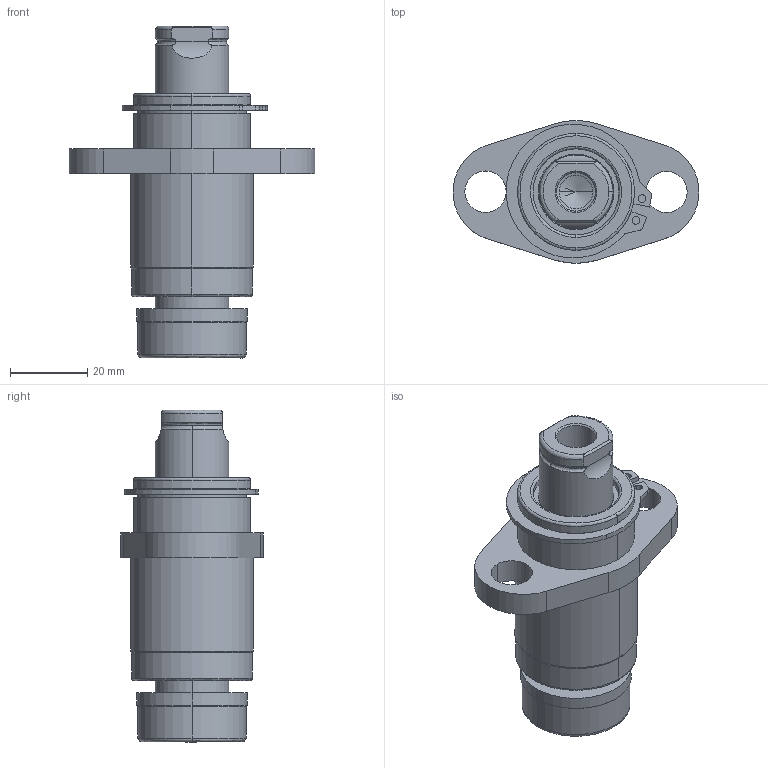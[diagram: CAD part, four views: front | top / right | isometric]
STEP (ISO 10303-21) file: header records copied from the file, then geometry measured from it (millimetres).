
FILE_DESCRIPTION (( 'STEP AP214' ), '1' );
FILE_NAME ('GK75-L2-M-XXX.STEP', '2020-09-17T16:29:55', ( '' ), ( '' ), 'SwSTEP 2.0', 'SolidWorks 2017', '' );
FILE_SCHEMA (( 'AUTOMOTIVE_DESIGN' ));
Length unit declared in the file: inch
Products named in the file (7): GK0.75-L2-M-Base; GK75-M-GuidePin; GK75-M-XXX-GuidePin; GK75-DampeningWasher; RetainingRing-GK0.75-M; GK75-L2-M-XXX
Assembly tree (6 placements, depth 3):
  GK75-L2-M-XXX
    GK0.75-L2-M-Base
      GK0.75-L2-M-Base
      RetainingRing-GK0.75-M
    GK75-M-XXX-GuidePin
      GK75-DampeningWasher
      GK75-M-GuidePin
Bounding box: 63.41 x 36.83 x 85.72 mm (x, y, z)
Volume: 56345.3 mm3; surface area: 21111 mm2
Topology: 4 solids, 4 shells, 120 faces, 288 edges, 181 vertices
Faces by surface type: cylinder 57, plane 28, bspline 21, cone 14
Entity records: 4577 total; most frequent: CARTESIAN_POINT 1416, DIRECTION 613, ORIENTED_EDGE 572, EDGE_CURVE 286, AXIS2_PLACEMENT_3D 252, VERTEX_POINT 181, CIRCLE 142, EDGE_LOOP 139
